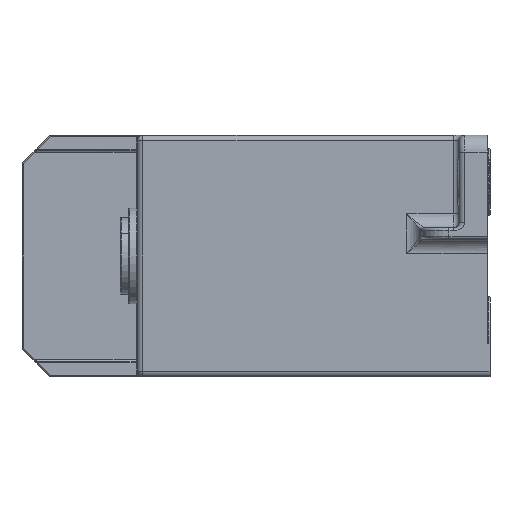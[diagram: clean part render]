
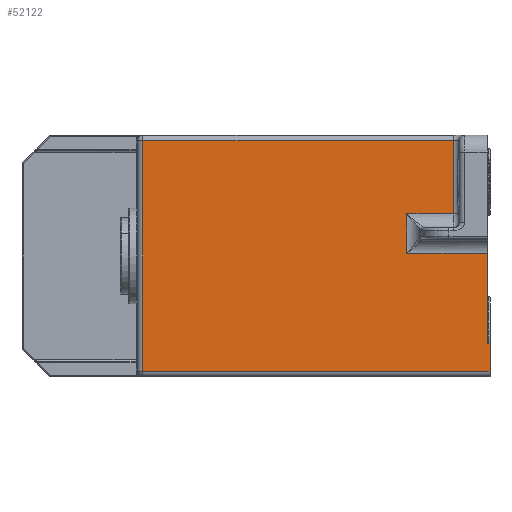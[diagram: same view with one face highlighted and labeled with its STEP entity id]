
A CAD part, left-side view. The second image highlights one B-rep face of the part: STEP entity #52122.
In plain terms, the highlighted planar face has unit normal (-1, 0, 0).
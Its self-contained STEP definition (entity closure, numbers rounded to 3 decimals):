
#302 = EDGE_LOOP ( 'NONE', ( #39247, #18070, #31688, #35265, #39987, #4489, #22822, #25754, #3991, #30133 ) ) ;
#318 = VERTEX_POINT ( 'NONE', #46762 ) ;
#962 = CARTESIAN_POINT ( 'NONE',  ( -27.5, -4., -20.5 ) ) ;
#1697 = CARTESIAN_POINT ( 'NONE',  ( -27.5, -3.5, -21.5 ) ) ;
#1901 = DIRECTION ( 'NONE',  ( 0., 0., 1. ) ) ;
#3991 = ORIENTED_EDGE ( 'NONE', *, *, #40750, .T. ) ;
#4129 = DIRECTION ( 'NONE',  ( 1., 0., 0. ) ) ;
#4280 = CARTESIAN_POINT ( 'NONE',  ( -27.5, 10.8, 7.5 ) ) ;
#4489 = ORIENTED_EDGE ( 'NONE', *, *, #21688, .F. ) ;
#4918 = VERTEX_POINT ( 'NONE', #962 ) ;
#5282 = CARTESIAN_POINT ( 'NONE',  ( -27.5, 2.5, 7.5 ) ) ;
#5327 = VECTOR ( 'NONE', #41772, 1000. ) ;
#5820 = AXIS2_PLACEMENT_3D ( 'NONE', #40369, #4129, #8738 ) ;
#5895 = VERTEX_POINT ( 'NONE', #4280 ) ;
#6119 = CARTESIAN_POINT ( 'NONE',  ( -27.5, -4., -20.5 ) ) ;
#6208 = LINE ( 'NONE', #58184, #26156 ) ;
#6777 = CARTESIAN_POINT ( 'NONE',  ( -27.5, 2.5, -21.5 ) ) ;
#7699 = VECTOR ( 'NONE', #19713, 1000. ) ;
#8738 = DIRECTION ( 'NONE',  ( 0., 0., -1. ) ) ;
#9906 = EDGE_CURVE ( 'NONE', #38726, #16917, #44655, .T. ) ;
#9945 = CARTESIAN_POINT ( 'NONE',  ( -27.5, -4., -15.5 ) ) ;
#13351 = CARTESIAN_POINT ( 'NONE',  ( -27.5, 10.8, 0.5 ) ) ;
#16111 = LINE ( 'NONE', #40324, #55893 ) ;
#16917 = VERTEX_POINT ( 'NONE', #56052 ) ;
#17474 = LINE ( 'NONE', #9945, #5327 ) ;
#17984 = VECTOR ( 'NONE', #1901, 1000. ) ;
#18070 = ORIENTED_EDGE ( 'NONE', *, *, #45148, .T. ) ;
#18349 = FACE_OUTER_BOUND ( 'NONE', #302, .T. ) ;
#19191 = CARTESIAN_POINT ( 'NONE',  ( -27.5, -3.5, -15.5 ) ) ;
#19713 = DIRECTION ( 'NONE',  ( 0., 0., 1. ) ) ;
#20131 = VECTOR ( 'NONE', #24225, 1000. ) ;
#20340 = VECTOR ( 'NONE', #24157, 1000. ) ;
#21688 = EDGE_CURVE ( 'NONE', #34549, #4918, #27978, .T. ) ;
#22138 = DIRECTION ( 'NONE',  ( 0., 1., 0. ) ) ;
#22822 = ORIENTED_EDGE ( 'NONE', *, *, #53648, .T. ) ;
#23053 = DIRECTION ( 'NONE',  ( 0., -1., 0. ) ) ;
#24157 = DIRECTION ( 'NONE',  ( 0., 0., 1. ) ) ;
#24225 = DIRECTION ( 'NONE',  ( 0., 0., -1. ) ) ;
#24282 = EDGE_CURVE ( 'NONE', #318, #38726, #16111, .T. ) ;
#25754 = ORIENTED_EDGE ( 'NONE', *, *, #55747, .T. ) ;
#26156 = VECTOR ( 'NONE', #22138, 1000. ) ;
#26784 = VECTOR ( 'NONE', #43086, 1000. ) ;
#27978 = LINE ( 'NONE', #6119, #20131 ) ;
#30133 = ORIENTED_EDGE ( 'NONE', *, *, #57241, .T. ) ;
#30338 = LINE ( 'NONE', #34300, #26784 ) ;
#31688 = ORIENTED_EDGE ( 'NONE', *, *, #24282, .T. ) ;
#32014 = VERTEX_POINT ( 'NONE', #47886 ) ;
#34300 = CARTESIAN_POINT ( 'NONE',  ( -27.5, 1.5, 7.5 ) ) ;
#34549 = VERTEX_POINT ( 'NONE', #54097 ) ;
#34625 = VERTEX_POINT ( 'NONE', #13351 ) ;
#34686 = VECTOR ( 'NONE', #57881, 1000. ) ;
#35265 = ORIENTED_EDGE ( 'NONE', *, *, #9906, .T. ) ;
#36193 = PLANE ( 'NONE',  #5820 ) ;
#37177 = CARTESIAN_POINT ( 'NONE',  ( -27.5, 58.8, -20.5 ) ) ;
#38726 = VERTEX_POINT ( 'NONE', #44235 ) ;
#39247 = ORIENTED_EDGE ( 'NONE', *, *, #46243, .T. ) ;
#39987 = ORIENTED_EDGE ( 'NONE', *, *, #47011, .T. ) ;
#40115 = DIRECTION ( 'NONE',  ( 0., 1., 0. ) ) ;
#40324 = CARTESIAN_POINT ( 'NONE',  ( -27.5, 58.8, 20.5 ) ) ;
#40369 = CARTESIAN_POINT ( 'NONE',  ( -27.5, 58.8, -21.5 ) ) ;
#40379 = VERTEX_POINT ( 'NONE', #19191 ) ;
#40750 = EDGE_CURVE ( 'NONE', #32014, #34625, #6208, .T. ) ;
#41772 = DIRECTION ( 'NONE',  ( 0., 1., 0. ) ) ;
#43086 = DIRECTION ( 'NONE',  ( 0., -1., 0. ) ) ;
#44235 = CARTESIAN_POINT ( 'NONE',  ( -27.5, 57.8, 20.5 ) ) ;
#44330 = LINE ( 'NONE', #37177, #47830 ) ;
#44655 = LINE ( 'NONE', #53286, #34686 ) ;
#45148 = EDGE_CURVE ( 'NONE', #52340, #318, #48902, .T. ) ;
#45804 = LINE ( 'NONE', #1697, #17984 ) ;
#46243 = EDGE_CURVE ( 'NONE', #5895, #52340, #30338, .T. ) ;
#46762 = CARTESIAN_POINT ( 'NONE',  ( -27.5, 2.5, 20.5 ) ) ;
#47011 = EDGE_CURVE ( 'NONE', #16917, #4918, #44330, .T. ) ;
#47830 = VECTOR ( 'NONE', #23053, 1000. ) ;
#47886 = CARTESIAN_POINT ( 'NONE',  ( -27.5, -3.5, 0.5 ) ) ;
#48902 = LINE ( 'NONE', #6777, #7699 ) ;
#51196 = CARTESIAN_POINT ( 'NONE',  ( -27.5, 10.8, 5. ) ) ;
#52122 = ADVANCED_FACE ( 'NONE', ( #18349 ), #36193, .F. ) ;
#52340 = VERTEX_POINT ( 'NONE', #5282 ) ;
#53286 = CARTESIAN_POINT ( 'NONE',  ( -27.5, 57.8, -20.5 ) ) ;
#53648 = EDGE_CURVE ( 'NONE', #34549, #40379, #17474, .T. ) ;
#54097 = CARTESIAN_POINT ( 'NONE',  ( -27.5, -4., -15.5 ) ) ;
#55747 = EDGE_CURVE ( 'NONE', #40379, #32014, #45804, .T. ) ;
#55880 = LINE ( 'NONE', #51196, #20340 ) ;
#55893 = VECTOR ( 'NONE', #40115, 1000. ) ;
#56052 = CARTESIAN_POINT ( 'NONE',  ( -27.5, 57.8, -20.5 ) ) ;
#57241 = EDGE_CURVE ( 'NONE', #34625, #5895, #55880, .T. ) ;
#57881 = DIRECTION ( 'NONE',  ( 0., 0., -1. ) ) ;
#58184 = CARTESIAN_POINT ( 'NONE',  ( -27.5, 58.8, 0.5 ) ) ;
